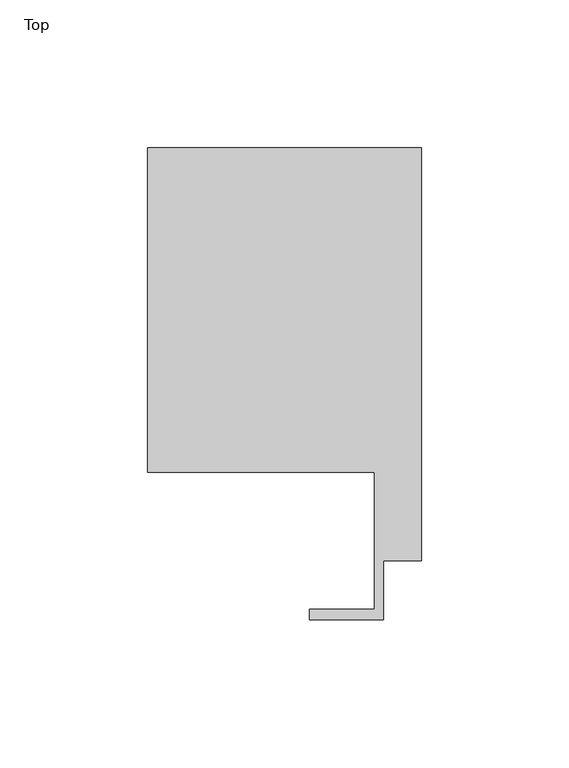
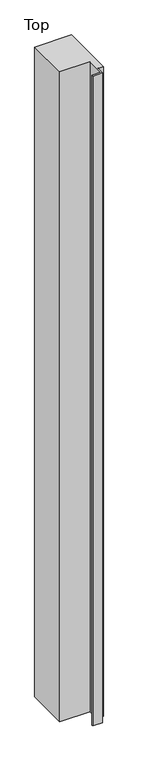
"""IFC4 building model written with IfcOpenShell, lengths in millimetres: member geometry, 長方形マリオン : Top."""

import ifcopenshell
import ifcopenshell.guid

model = None  # the IFC model being written
_history = None  # IfcOwnerHistory: only IFC2X3 demands one
_inside = {}  # id of a spatial element -> (the spatial element, [elements in it])
_under = {}  # id of a project, library or spatial element -> (it, [spatial elements below it])
_declared = {}  # id of a project -> (the project, [libraries it declares])
_typed = {}  # id of a type object -> (the type object, [elements of that type])
_made_of = {}  # id of a material, layer set ... -> (it, [elements and type objects made of it])


def new_model(schema):
    """Start an empty IFC model of exactly this schema.

    Asked for "IFC4X3", IfcOpenShell would pick the latest addendum, in which some entities
    have other attributes; the version numbers below select the first issue.
    IFC2X3 requires an IfcOwnerHistory on every rooted entity: one is made here for all.
    """
    global model, _history
    if schema == "IFC4X3":
        model = ifcopenshell.file(schema_version=(4, 3, 0, 0))
    else:
        model = ifcopenshell.file(schema=schema)
    _inside.clear()
    _under.clear()
    _declared.clear()
    _typed.clear()
    _made_of.clear()
    _history = None
    if model.schema == "IFC2X3":
        org = make("IfcOrganization", Name="unknown")
        user = make(
            "IfcPersonAndOrganization",
            ThePerson=make("IfcPerson", FamilyName="unknown"),
            TheOrganization=org,
        )
        app = make(
            "IfcApplication",
            ApplicationDeveloper=org,
            Version="unknown",
            ApplicationFullName="unknown",
            ApplicationIdentifier="unknown",
        )
        _history = make(
            "IfcOwnerHistory",
            OwningUser=user,
            OwningApplication=app,
            ChangeAction="ADDED",
            CreationDate=0,
        )
    return model


def make(cls, **values):
    """One entity of the class cls with the attributes given. An attribute that is None is left unset."""
    return model.create_entity(
        cls, **{name: value for name, value in values.items() if value is not None}
    )


def rooted(cls, **values):
    """An entity with a GlobalId (a new one), such as an element, a storey or a relation."""
    return make(cls, GlobalId=ifcopenshell.guid.new(), OwnerHistory=_history, **values)


def si_unit(unit_type, name, prefix=None):
    """IfcSIUnit, for example si_unit("LENGTHUNIT", "METRE", prefix="MILLI")."""
    return make("IfcSIUnit", UnitType=unit_type, Prefix=prefix, Name=name)


def assignment(units):
    """IfcUnitAssignment: the units of a project."""
    return None if units is None else make("IfcUnitAssignment", Units=units)


def point(xyz):
    """IfcCartesianPoint."""
    return None if xyz is None else make("IfcCartesianPoint", Coordinates=xyz)


def direction(xyz):
    """IfcDirection."""
    return None if xyz is None else make("IfcDirection", DirectionRatios=xyz)


def frame(location, z_axis=None, x_axis=None):
    """IfcAxis2Placement3D, a coordinate frame: its origin and axes. An axis left out is left unset."""
    return make(
        "IfcAxis2Placement3D",
        Location=point(location),
        Axis=direction(z_axis),
        RefDirection=direction(x_axis),
    )


def origin():
    """The frame at (0, 0, 0) with its axes left unset."""
    return frame((0.0, 0.0, 0.0))


def place(relative_to, where):
    """IfcLocalPlacement: puts the frame where relative to a parent placement (None: the world)."""
    return make(
        "IfcLocalPlacement", PlacementRelTo=relative_to, RelativePlacement=where
    )


def context(
    kind, dimensions, precision=None, world=None, true_north=None, identifier=None
):
    """IfcGeometricRepresentationContext, for example the 3D "Model" context."""
    return make(
        "IfcGeometricRepresentationContext",
        ContextIdentifier=identifier,
        ContextType=kind,
        CoordinateSpaceDimension=dimensions,
        Precision=precision,
        WorldCoordinateSystem=world,
        TrueNorth=true_north,
    )


def project(units=None, contexts=None):
    """IfcProject with its units and contexts."""
    return rooted(
        "IfcProject",
        Name="project",
        RepresentationContexts=contexts,
        UnitsInContext=assignment(units),
    )


def spatial(cls, under=None, at=None, **own):
    """A site, building, storey or space (cls), placed at a placement, below another one or the project."""
    s = rooted(cls, ObjectPlacement=at, **own)
    if under is not None:
        _under.setdefault(under.id(), (under, []))[1].append(s)
    return s


def polyline(points):
    """IfcPolyline through the points."""
    return make("IfcPolyline", Points=[point(p) for p in points])


def outline(outer, holes=None, kind="AREA"):
    """IfcArbitraryClosedProfileDef: a profile drawn as a closed curve; with holes, ...WithVoids."""
    if holes is None:
        return make("IfcArbitraryClosedProfileDef", ProfileType=kind, OuterCurve=outer)
    return make(
        "IfcArbitraryProfileDefWithVoids",
        ProfileType=kind,
        OuterCurve=outer,
        InnerCurves=holes,
    )


def extrude(swept, where, along, depth):
    """IfcExtrudedAreaSolid: the profile swept, set in the frame where, extruded along a direction by depth."""
    return make(
        "IfcExtrudedAreaSolid",
        SweptArea=swept,
        Position=where,
        ExtrudedDirection=direction(along),
        Depth=depth,
    )


def shape(context_of_items, identifier, shape_type, items):
    """IfcShapeRepresentation: the items that make up one representation, for example the "Body"."""
    return make(
        "IfcShapeRepresentation",
        ContextOfItems=context_of_items,
        RepresentationIdentifier=identifier,
        RepresentationType=shape_type,
        Items=items,
    )


def source(mapping_origin, context_of_items, identifier, shape_type, items):
    """IfcRepresentationMap: a shape defined once, which mapped items show again and again."""
    return make(
        "IfcRepresentationMap",
        MappingOrigin=mapping_origin,
        MappedRepresentation=shape(context_of_items, identifier, shape_type, items),
    )


def transform(
    local_origin,
    x_axis=None,
    y_axis=None,
    z_axis=None,
    scale=None,
    scale2=None,
    scale3=None,
    uniform=True,
):
    """IfcCartesianTransformationOperator3D, or its non-uniform kind. x_axis, y_axis, z_axis: its Axis1, 2, 3."""
    if uniform:
        return make(
            "IfcCartesianTransformationOperator3D",
            Axis1=direction(x_axis),
            Axis2=direction(y_axis),
            LocalOrigin=point(local_origin),
            Scale=scale,
            Axis3=direction(z_axis),
        )
    return make(
        "IfcCartesianTransformationOperator3DnonUniform",
        Axis1=direction(x_axis),
        Axis2=direction(y_axis),
        LocalOrigin=point(local_origin),
        Scale=scale,
        Axis3=direction(z_axis),
        Scale2=scale2,
        Scale3=scale3,
    )


def mapped(mapping_source, mapping_target):
    """IfcMappedItem: shows the shape of a source again, moved by a transform."""
    return make(
        "IfcMappedItem", MappingSource=mapping_source, MappingTarget=mapping_target
    )


def made_of(thing, what):
    """Note that an element or type object is made of a material, layer set ...; save() writes the relation."""
    if what is not None:
        _made_of.setdefault(what.id(), (what, []))[1].append(thing)
    return thing


def element(
    cls,
    number,
    at=None,
    inside=None,
    cuts=None,
    type_object=None,
    material=None,
    context=None,
    identifier="Body",
    shape_type=None,
    held_by="IfcProductDefinitionShape",
    body=None,
    shapes=None,
    **own,
):
    """One element of the class cls, such as IfcWall. Its Tag is "e" and its number.

    at: its placement. inside: the storey or other place that contains it. cuts: it is an
    opening in that element (IfcRelVoidsElement). A single representation is given by context,
    identifier, shape_type and body (its items); several are given by shapes. held_by: the class
    of the entity that holds the representations. save() writes the other relations.
    """
    e = rooted(cls, Tag="e%d" % number, ObjectPlacement=at, **own)
    if body is not None:
        shapes = [shape(context, identifier, shape_type, body)]
    if shapes is not None:
        e.Representation = make(held_by, Representations=shapes)
    if inside is not None:
        _inside.setdefault(inside.id(), (inside, []))[1].append(e)
    if cuts is not None:
        rooted(
            "IfcRelVoidsElement", RelatingBuildingElement=cuts, RelatedOpeningElement=e
        )
    if type_object is not None:
        _typed.setdefault(type_object.id(), (type_object, []))[1].append(e)
    return made_of(e, material)


def aggregate(whole, parts):
    """IfcRelAggregates: a whole, such as a stair, and the parts it consists of."""
    return rooted("IfcRelAggregates", RelatingObject=whole, RelatedObjects=parts)


def save(model, path):
    """Write the relations noted so far, then the file.

    IfcRelAggregates (storeys below a building ...), IfcRelContainedInSpatialStructure (elements
    in a storey), IfcRelDefinesByType, IfcRelAssociatesMaterial and IfcRelDeclares: one each for
    every whole, place, type object, material and project.
    """
    for whole, parts in _under.values():
        aggregate(whole, parts)
    for where, things in _inside.values():
        rooted(
            "IfcRelContainedInSpatialStructure",
            RelatedElements=things,
            RelatingStructure=where,
        )
    for kind, things in _typed.values():
        rooted("IfcRelDefinesByType", RelatedObjects=things, RelatingType=kind)
    for what, things in _made_of.values():
        rooted("IfcRelAssociatesMaterial", RelatedObjects=things, RelatingMaterial=what)
    for by, libraries in _declared.values():
        rooted("IfcRelDeclares", RelatingContext=by, RelatedDefinitions=libraries)
    model.write(path)


def top_173eb091(model_context):
    return source(origin(), model_context, "Body", "SweptSolid", [
        extrude(outline(polyline([(-93.0, 136.0040267), (0.0, 136.0040267), (0.0, -3.9960658), (-13.0, -3.9960658), (-13.0, -23.9960658), (-38.0, -23.9960658), (-38.0, -20.4960658), (-16.0, -20.4960658), (-16.0, 26.0039342), (-93.0, 26.0039342), (-93.0, 136.0040267)])), frame((0.0, 0.0, -1739.5337945), z_axis=(0.0, 0.0, 1.0), x_axis=(1.0, 0.0, 0.0)), (0.0, 0.0, 1.0), 1739.5337945),
    ])


if __name__ == "__main__":
    model = new_model("IFC4")
    model_context = context("Model", 3, world=origin())
    ifc_project = project(units=[si_unit("LENGTHUNIT", "METRE", prefix="MILLI")], contexts=[model_context])
    site = spatial("IfcSite", under=ifc_project)
    building = spatial("IfcBuilding", under=site)
    placement = place(None, origin())
    top_shape = top_173eb091(model_context)
    element("IfcMember", 1, ObjectType="長方形マリオン : Top", at=placement, inside=building, context=model_context, shape_type="MappedRepresentation", body=[
        mapped(top_shape, transform((0.0, 0.0, 0.0), x_axis=(1.0, 0.0, 0.0), y_axis=(0.0, 1.0, 0.0), z_axis=(0.0, 0.0, 1.0))),
    ])
    save(model, "model.ifc")
